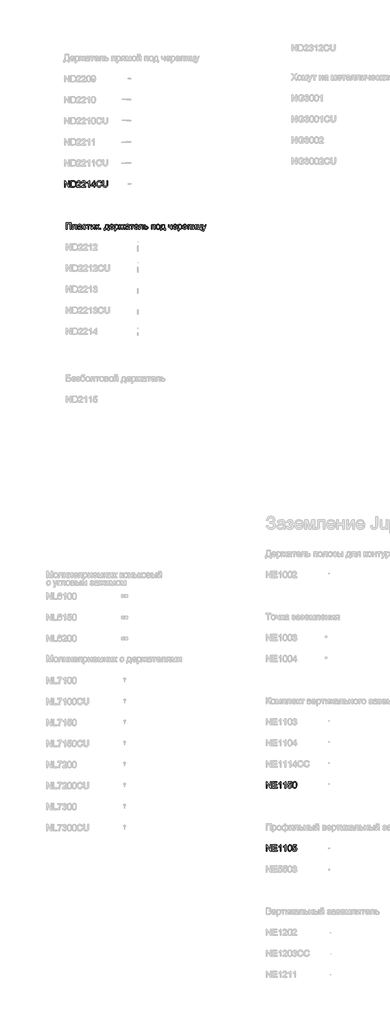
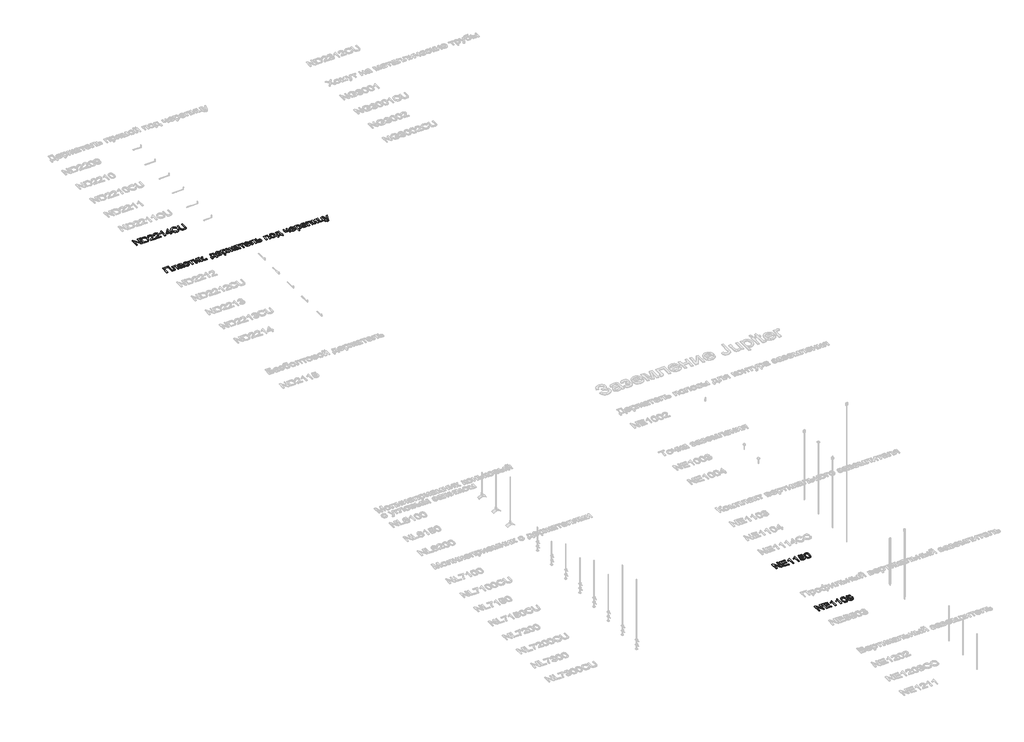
# One storey, part 72 of 124: 4 proxies.
"""IFC4 building model written with IfcOpenShell, lengths in millimetres."""

from ifc_helpers import new_model, si_unit, origin, origin_with_axes, place, context, project, spatial, polyline, outline, extrude, element, save

model = new_model("IFC4")

# Units and contexts
model_context = context("Model", 3, world=origin())
ifc_project = project(units=[si_unit("LENGTHUNIT", "METRE", prefix="MILLI")], contexts=[model_context])

# Site, building, storey
site = spatial("IfcSite", under=ifc_project)
building = spatial("IfcBuilding", under=site)
storey = spatial("IfcBuildingStorey", under=building, Name="Этаж 01", Elevation=0.0)

# Proxies
placement = place(None, origin())
element("IfcBuildingElementProxy", 1, Name="300", ObjectType="300", at=placement, inside=storey, context=model_context, shape_type="SweptSolid", body=[
    extrude(outline(polyline([(23340.1671275, -32519.5141033), (23340.1671275, -32218.1451728), (23380.4869942, -32218.1451728), (23537.9404881, -32456.9005877), (23537.9404881, -32218.1451728), (23575.6116044, -32218.1451728), (23575.6116044, -32519.5141033), (23535.2917378, -32519.5141033), (23377.8382438, -32280.685112), (23377.8382438, -32519.5141033), (23340.1671275, -32519.5141033)])), origin_with_axes(), (0.0, 0.0, 1.0), 20.0),
    extrude(outline(polyline([(23641.536058, -32519.5141033), (23641.536058, -32218.1451728), (23745.4995098, -32218.1451728), (23799.2838575, -32222.4861804), (23823.3065518, -32230.8554957), (23843.5768497, -32244.0440653), (23864.4173648, -32266.9999018), (23879.2614033, -32295.5475446), (23888.1457534, -32329.1351708), (23891.1072035, -32367.2109573), (23889.1022466, -32399.5569817), (23883.087376, -32428.0218511), (23873.9271143, -32452.2560775), (23862.4859843, -32471.9101731), (23849.3158089, -32487.4255962), (23834.968411, -32499.2438053), (23818.4964947, -32508.0085939), (23798.9527637, -32514.3637553), (23750.5027049, -32519.5141033), (23641.536058, -32519.5141033)]), holes=[polyline([(23679.2071743, -32481.842987), (23745.8673918, -32481.842987), (23773.4401473, -32480.4818236), (23794.3542388, -32476.3983334), (23810.1363764, -32469.8316398), (23822.3132704, -32461.020866), (23835.4006724, -32444.7144966), (23845.2323187, -32423.6072671), (23851.3851451, -32397.6072071), (23853.4360872, -32366.6223461), (23849.4169764, -32325.5667154), (23837.359644, -32295.253239), (23819.5449584, -32274.4311181), (23798.2537879, -32261.8495538), (23776.5855384, -32257.3246053), (23744.8373222, -32255.8162891), (23679.2071743, -32255.8162891), (23679.2071743, -32481.842987)])]), origin_with_axes(), (0.0, 0.0, 1.0), 20.0),
    extrude(outline(polyline([(24121.8427909, -32481.842987), (24121.8427909, -32519.5141033), (23924.0694303, -32519.5141033), (23928.1161322, -32493.5416344), (23937.4051526, -32473.2437453), (23950.9983923, -32453.5528615), (23970.661685, -32432.9422727), (23998.1608641, -32409.8852687), (24038.8118246, -32373.7776509), (24063.2024008, -32347.1246003), (24075.397689, -32325.493139), (24079.462785, -32304.4502889), (24075.6276152, -32285.5871396), (24064.1221058, -32269.9061695), (24046.4361789, -32259.3387592), (24024.0597566, -32255.8162891), (24000.5612941, -32259.2559858), (23982.3051501, -32269.5750757), (23970.5237292, -32285.9642186), (23966.4494361, -32307.614074), (23928.7783198, -32302.9051845), (23937.9109903, -32266.4664729), (23946.4573489, -32251.9305355), (23957.6570564, -32239.8502105), (23971.2525954, -32230.3542565), (23986.9864485, -32223.5714322), (24024.869097, -32218.1451728), (24045.0589207, -32219.653489), (24063.0276569, -32224.1784375), (24078.7753056, -32231.7200184), (24092.3018667, -32242.2782317), (24103.1658818, -32255.0713281), (24110.9258927, -32269.3175583), (24115.5818992, -32285.0169225), (24117.1339013, -32302.1694205), (24115.4600383, -32320.1864412), (24110.438449, -32337.8907622), (24101.5265077, -32355.8985859), (24088.1815883, -32374.8261146), (24066.9088119, -32397.4232661), (24034.2132996, -32426.4399585), (23990.8768006, -32462.676335), (23973.8806524, -32481.842987), (24121.8427909, -32481.842987)])), origin_with_axes(), (0.0, 0.0, 1.0), 20.0),
    extrude(outline(polyline([(24352.5783783, -32481.842987), (24352.5783783, -32519.5141033), (24154.8050176, -32519.5141033), (24158.8517196, -32493.5416344), (24168.14074, -32473.2437453), (24181.7339797, -32453.5528615), (24201.3972723, -32432.9422727), (24228.8964515, -32409.8852687), (24269.5474119, -32373.7776509), (24293.9379882, -32347.1246003), (24306.1332764, -32325.493139), (24310.1983724, -32304.4502889), (24306.3632026, -32285.5871396), (24294.8576932, -32269.9061695), (24277.1717663, -32259.3387592), (24254.7953439, -32255.8162891), (24231.2968815, -32259.2559858), (24213.0407375, -32269.5750757), (24201.2593166, -32285.9642186), (24197.1850235, -32307.614074), (24159.5139072, -32302.9051845), (24168.6465777, -32266.4664729), (24177.1929363, -32251.9305355), (24188.3926438, -32239.8502105), (24201.9881828, -32230.3542565), (24217.7220359, -32223.5714322), (24255.6046843, -32218.1451728), (24275.7945081, -32219.653489), (24293.7632443, -32224.1784375), (24309.5108929, -32231.7200184), (24323.037454, -32242.2782317), (24333.9014692, -32255.0713281), (24341.66148, -32269.3175583), (24346.3174865, -32285.0169225), (24347.8694887, -32302.1694205), (24346.1956256, -32320.1864412), (24341.1740364, -32337.8907622), (24332.2620951, -32355.8985859), (24318.9171757, -32374.8261146), (24297.6443993, -32397.4232661), (24264.948887, -32426.4399585), (24221.612388, -32462.676335), (24204.6162398, -32481.842987), (24352.5783783, -32481.842987)])), origin_with_axes(), (0.0, 0.0, 1.0), 20.0),
    extrude(outline(polyline([(24531.5161807, -32519.5141033), (24493.8450644, -32519.5141033), (24493.8450644, -32284.6582375), (24458.1605109, -32310.0788834), (24418.5028318, -32329.0983826), (24418.5028318, -32293.4874054), (24448.0897413, -32277.3925681), (24473.7219193, -32258.2443103), (24493.9278379, -32237.8820419), (24507.235969, -32218.1451728), (24531.5161807, -32218.1451728), (24531.5161807, -32519.5141033)])), origin_with_axes(), (0.0, 0.0, 1.0), 20.0),
    extrude(outline(polyline([(24743.4162099, -32519.5141033), (24743.4162099, -32448.8807602), (24606.8584133, -32448.8807602), (24606.8584133, -32411.2096439), (24752.833989, -32222.8540624), (24781.0873262, -32222.8540624), (24781.0873262, -32411.2096439), (24818.7584425, -32411.2096439), (24818.7584425, -32448.8807602), (24781.0873262, -32448.8807602), (24781.0873262, -32519.5141033), (24743.4162099, -32519.5141033)]), holes=[polyline([(24743.4162099, -32411.2096439), (24743.4162099, -32294.8117806), (24653.2115447, -32411.2096439), (24743.4162099, -32411.2096439)])]), origin_with_axes(), (0.0, 0.0, 1.0), 20.0),
    extrude(outline(polyline([(25077.7473671, -32412.3868663), (25115.4184835, -32422.0989509), (25107.9642745, -32445.5261362), (25098.0360592, -32465.99647), (25085.6338374, -32483.5099522), (25070.7576092, -32498.0665829), (25053.743067, -32509.5100123), (25034.9259029, -32517.6838903), (25014.3061171, -32522.5882172), (24991.8837095, -32524.2229928), (24948.1885255, -32519.27498), (24913.4880563, -32504.4309415), (24886.890188, -32480.2059121), (24867.5028069, -32447.1149266), (24855.6662037, -32408.2114056), (24851.7206693, -32366.5487697), (24856.1812385, -32322.6052653), (24869.5629461, -32284.6582375), (24891.1668162, -32253.9124998), (24920.2938732, -32231.5728656), (24954.8379926, -32217.9704289), (24992.6930499, -32213.4362833), (25033.9970009, -32219.3040011), (25051.9657371, -32226.6386484), (25068.1456471, -32236.9071546), (25082.2700164, -32249.8382067), (25094.0721307, -32265.1604918), (25110.7095939, -32302.9787609), (25073.0384776, -32311.9550816), (25059.9786668, -32284.4834936), (25042.13639, -32265.6387384), (25019.2909181, -32254.7402343), (24991.2215219, -32251.1073996), (24958.8663004, -32255.1357074), (24932.2868263, -32267.220631), (24912.1176959, -32286.0929773), (24898.9935057, -32310.4835536), (24891.7922156, -32338.0563091), (24889.3917856, -32366.4751933), (24892.233674, -32401.27683), (24900.7593393, -32431.3695772), (24915.2906781, -32455.6038036), (24936.1495872, -32472.8298781), (24961.1563658, -32483.1213769), (24988.1313131, -32486.5518765), (25019.5760267, -32481.8797752), (25045.7784218, -32467.8634711), (25065.5612761, -32444.6501172), (25077.7473671, -32412.3868663)])), origin_with_axes(), (0.0, 0.0, 1.0), 20.0),
    extrude(outline(polyline([(25364.989629, -32218.1451728), (25402.6607453, -32218.1451728), (25402.6607453, -32392.0062037), (25400.1039654, -32432.7215435), (25392.4336258, -32464.0742866), (25378.1046221, -32488.2625278), (25355.5718499, -32507.484362), (25324.7801269, -32520.0383351), (25285.6742708, -32524.2229928), (25247.4237404, -32520.580961), (25216.8435495, -32509.6548658), (25193.9245012, -32491.8217861), (25178.6573984, -32467.4588009), (25170.0765509, -32434.7816827), (25167.2162684, -32392.0062037), (25167.2162684, -32218.1451728), (25204.8873847, -32218.1451728), (25204.8873847, -32390.6818285), (25206.7451888, -32424.5361692), (25212.318601, -32448.108208), (25222.4169618, -32464.4329715), (25237.8496114, -32476.5454862), (25257.9727566, -32484.0502789), (25282.1426037, -32486.5518765), (25320.4575135, -32481.6038637), (25334.8003128, -32475.4188476), (25345.9333416, -32466.7598252), (25354.2704673, -32454.5829311), (25360.2255571, -32437.8443003), (25364.989629, -32390.6818285), (25364.989629, -32218.1451728)])), origin_with_axes(), (0.0, 0.0, 1.0), 20.0),
])
element("IfcBuildingElementProxy", 2, Name="300", ObjectType="300", at=placement, inside=storey, context=model_context, shape_type="SweptSolid", body=[
    extrude(outline(polyline([(23426.0630912, -34218.1451728), (23661.5075681, -34218.1451728), (23661.5075681, -34519.5141033), (23623.8364518, -34519.5141033), (23623.8364518, -34255.8162891), (23463.7342075, -34255.8162891), (23463.7342075, -34519.5141033), (23426.0630912, -34519.5141033), (23426.0630912, -34218.1451728)])), origin_with_axes(), (0.0, 0.0, 1.0), 20.0),
    extrude(outline(polyline([(23741.5586903, -34298.196295), (23911.0787136, -34298.196295), (23911.0787136, -34519.2933741), (23873.4075973, -34519.2933741), (23873.4075973, -34335.8674113), (23779.2298066, -34335.8674113), (23779.2298066, -34441.4495439), (23776.6914208, -34490.15712), (23771.936546, -34501.1843829), (23762.7486932, -34510.7217236), (23748.8059656, -34517.3160083), (23729.7864664, -34519.5141033), (23699.1786844, -34517.6011169), (23699.1786844, -34481.842987), (23716.0276798, -34481.842987), (23733.0606162, -34479.5253304), (23739.8664331, -34472.1676905), (23741.5586903, -34439.3158283), (23741.5586903, -34298.196295)])), origin_with_axes(), (0.0, 0.0, 1.0), 20.0),
    extrude(outline(polyline([(24108.8520742, -34491.260766), (24090.8534476, -34506.6934157), (24072.3213921, -34516.7917765), (24052.8328434, -34522.3651887), (24031.9647373, -34524.2229928), (24000.4832355, -34519.7532266), (23977.2606846, -34506.3439278), (23962.9408779, -34485.9816594), (23958.167609, -34460.652984), (23959.9702308, -34445.0363933), (23965.3780961, -34430.8545424), (23973.7198204, -34418.7144366), (23984.3240189, -34409.2230811), (24010.7011579, -34396.8622461), (24043.2955027, -34391.1968633), (24081.8127476, -34385.237175), (24108.631345, -34378.2474171), (24108.8520742, -34369.8597076), (24106.2585062, -34353.0475004), (24098.477802, -34342.0478288), (24081.0769836, -34333.8808485), (24056.8335601, -34331.1585217), (24034.3927584, -34332.9703406), (24018.7209854, -34338.405797), (24008.0340135, -34348.4581726), (24000.5476149, -34364.1207485), (23962.8764986, -34359.411859), (23969.415601, -34338.8104672), (23979.1736709, -34322.6236594), (23993.0612163, -34310.2444303), (24011.9887449, -34301.0657745), (24035.1377195, -34295.3819977), (24061.6896025, -34293.4874054), (24087.1562336, -34295.1612685), (24107.3437581, -34300.1828577), (24122.5648756, -34307.7336357), (24133.1322859, -34316.9950649), (24140.1404379, -34328.445392), (24144.6837806, -34342.5628636), (24146.5231905, -34375.5250903), (24146.5231905, -34422.3932565), (24148.4361769, -34487.8394635), (24155.9409696, -34519.5141033), (24118.2698533, -34519.5141033), (24108.8520742, -34491.260766)]), holes=[polyline([(24108.8520742, -34415.9185334), (24048.0779686, -34427.4700281), (24015.6675649, -34433.5768692), (24000.9890733, -34443.5096831), (23995.8387253, -34458.0042337), (23998.6438255, -34469.2062404), (24007.0591262, -34478.3848962), (24020.9006862, -34484.5101314), (24039.9845647, -34486.5518765), (24060.2180745, -34484.2985993), (24078.0971394, -34477.5387676), (24092.5916901, -34467.5783626), (24102.6716567, -34455.7233653), (24107.141423, -34443.5096831), (24108.631345, -34426.5871113), (24108.8520742, -34415.9185334)])]), origin_with_axes(), (0.0, 0.0, 1.0), 20.0),
    extrude(outline(polyline([(24339.5876616, -34439.4629811), (24377.2587779, -34444.1718706), (24366.755747, -34477.6767234), (24347.0188779, -34502.9962017), (24319.9059749, -34518.916295), (24287.2748419, -34524.2229928), (24266.1469191, -34522.3720865), (24247.2032956, -34516.8193676), (24230.4439714, -34507.5648362), (24215.8689466, -34494.6084922), (24204.0714309, -34478.1940574), (24195.644634, -34458.5652537), (24190.5885558, -34435.7220811), (24188.9031964, -34409.6645395), (24191.781873, -34376.1412927), (24200.4179028, -34347.0878121), (24214.9492417, -34323.6261379), (24235.5138452, -34306.87831), (24260.1159536, -34296.8351316), (24286.7598071, -34293.4874054), (24318.5907967, -34298.0859304), (24344.0390338, -34311.8815052), (24362.2951778, -34334.1383659), (24372.5498884, -34364.1207485), (24334.8787721, -34368.829638), (24328.045364, -34352.3945099), (24317.4043773, -34340.613089), (24303.5444231, -34333.5221635), (24287.0541127, -34331.1585217), (24262.7095217, -34335.812229), (24243.3865199, -34349.7733507), (24230.7773645, -34373.796045), (24226.5743127, -34408.6344699), (24230.685394, -34443.9419444), (24243.0186379, -34468.0474121), (24261.9921518, -34481.9257604), (24286.0240431, -34486.5518765), (24305.5309859, -34483.6640028), (24321.5246557, -34475.0003818), (24333.1589238, -34460.3402843), (24339.5876616, -34439.4629811)])), origin_with_axes(), (0.0, 0.0, 1.0), 20.0),
    extrude(outline(polyline([(24391.3854465, -34298.196295), (24570.323249, -34298.196295), (24570.323249, -34335.8674113), (24499.6899059, -34335.8674113), (24499.6899059, -34519.5141033), (24462.0187896, -34519.5141033), (24462.0187896, -34335.8674113), (24391.3854465, -34335.8674113), (24391.3854465, -34298.196295)])), origin_with_axes(), (0.0, 0.0, 1.0), 20.0),
    extrude(outline(polyline([(24603.2854758, -34298.196295), (24640.9565921, -34298.196295), (24640.9565921, -34466.9805543), (24733.5157021, -34298.196295), (24782.2232782, -34298.196295), (24782.2232782, -34519.5141033), (24744.5521619, -34519.5141033), (24744.5521619, -34351.7599135), (24652.5816631, -34519.5141033), (24603.2854758, -34519.5141033), (24603.2854758, -34298.196295)])), origin_with_axes(), (0.0, 0.0, 1.0), 20.0),
    extrude(outline(polyline([(24838.7299527, -34298.196295), (24876.401069, -34298.196295), (24876.401069, -34392.3740857), (24891.7233541, -34390.6818285), (24901.6377738, -34385.605057), (24910.4117594, -34372.3613052), (24922.312742, -34346.1681071), (24939.4928312, -34312.1390226), (24954.6495694, -34301.0657745), (24982.2039308, -34298.196295), (24989.4144179, -34298.196295), (24989.4144179, -34336.0881405), (24979.2608748, -34335.8674113), (24960.8667751, -34339.8405368), (24947.9173288, -34364.6357833), (24932.7238024, -34391.4543807), (24911.4234349, -34404.587768), (24923.3612057, -34409.8898672), (24935.1886118, -34419.2478655), (24958.5123303, -34450.131559), (24998.832197, -34519.5141033), (24956.0107327, -34519.5141033), (24916.5002065, -34451.603087), (24896.6345787, -34422.8715031), (24887.3455583, -34417.6567758), (24876.401069, -34415.9185334), (24876.401069, -34519.5141033), (24838.7299527, -34519.5141033), (24838.7299527, -34298.196295)])), origin_with_axes(), (0.0, 0.0, 1.0), 20.0),
    extrude(outline(polyline([(25031.7944237, -34519.5141033), (25031.7944237, -34481.842987), (25069.46554, -34481.842987), (25069.46554, -34519.5141033), (25031.7944237, -34519.5141033)])), origin_with_axes(), (0.0, 0.0, 1.0), 20.0),
    extrude(outline(polyline([(25290.7833483, -34298.196295), (25432.0500345, -34298.196295), (25432.0500345, -34481.842987), (25460.3033717, -34481.842987), (25460.3033717, -34580.7296673), (25422.6322554, -34580.7296673), (25422.6322554, -34519.5141033), (25267.2389007, -34519.5141033), (25267.2389007, -34580.7296673), (25229.5677843, -34580.7296673), (25229.5677843, -34481.842987), (25253.112232, -34481.842987), (25270.2279419, -34450.9133082), (25282.2116979, -34409.9956333), (25289.0635, -34359.0899622), (25290.7833483, -34298.196295)]), holes=[polyline([(25323.7455751, -34335.8674113), (25320.6553664, -34381.9906164), (25314.9164072, -34421.6942807), (25306.5286977, -34454.9784043), (25295.4922379, -34481.842987), (25394.3789182, -34481.842987), (25394.3789182, -34335.8674113), (25323.7455751, -34335.8674113)])]), origin_with_axes(), (0.0, 0.0, 1.0), 20.0),
    extrude(outline(polyline([(25657.6352739, -34453.5896497), (25694.5706263, -34458.2985393), (25681.2624951, -34486.1288122), (25660.0265069, -34506.932539), (25631.3409083, -34519.9003794), (25595.6839459, -34524.2229928), (25572.3096437, -34522.3582909), (25551.4829242, -34516.7641853), (25533.2037876, -34507.440676), (25517.4722338, -34494.387763), (25504.8216917, -34477.9687297), (25495.7855902, -34458.5468596), (25490.3639293, -34436.1221527), (25488.556709, -34410.6946091), (25490.3823234, -34384.404842), (25495.8591666, -34361.2328748), (25504.9872386, -34341.1787076), (25517.7665394, -34324.2423402), (25533.4567065, -34310.7870562), (25551.3173773, -34301.1761391), (25571.348552, -34295.4095888), (25593.5502304, -34293.4874054), (25615.0368382, -34295.4049903), (25634.4679053, -34301.157745), (25651.8434318, -34310.7456695), (25667.1634176, -34324.1687638), (25679.6691062, -34341.068343), (25688.6017409, -34361.085722), (25693.9613217, -34384.220901), (25695.7478486, -34410.4738799), (25695.5271194, -34420.627423), (25526.2278253, -34420.627423), (25532.7485336, -34448.8255779), (25547.8960748, -34469.5557283), (25569.7574623, -34482.3028394), (25596.4197099, -34486.5518765), (25616.4692787, -34484.5837078), (25633.3550623, -34478.6792018), (25647.0770607, -34468.4704764), (25657.6352739, -34453.5896497)]), holes=[polyline([(25526.2278253, -34382.9563067), (25658.0767323, -34382.9563067), (25652.9815667, -34363.0538907), (25642.9935705, -34348.8168575), (25621.0310154, -34335.5731057), (25593.4030776, -34331.1585217), (25568.0100229, -34334.6809918), (25547.013158, -34345.2484021), (25532.4174398, -34361.7203185), (25526.2278253, -34382.9563067)])]), origin_with_axes(), (0.0, 0.0, 1.0), 20.0),
    extrude(outline(polyline([(25733.4189649, -34604.2741149), (25733.4189649, -34298.196295), (25771.0900812, -34298.196295), (25771.0900812, -34335.1316473), (25783.3773399, -34316.9122915), (25797.1361265, -34303.8984659), (25813.1757815, -34296.0901705), (25832.3056452, -34293.4874054), (25857.7814734, -34297.1294372), (25880.0567282, -34308.0555324), (25898.1933106, -34325.6035036), (25911.2531214, -34349.1111631), (25919.1441902, -34376.8678596), (25921.7745465, -34407.1629419), (25918.8038994, -34439.3802077), (25909.891958, -34468.1945649), (25895.323831, -34492.1436828), (25875.3846269, -34509.7652304), (25852.1620759, -34520.6085522), (25827.7439085, -34524.2229928), (25810.4258636, -34521.8041687), (25794.9656227, -34514.5476963), (25781.731068, -34503.5940099), (25771.0900812, -34490.0835436), (25771.0900812, -34604.2741149), (25733.4189649, -34604.2741149)]), holes=[polyline([(25771.0900812, -34410.6210327), (25775.1643743, -34444.3925998), (25787.3872536, -34468.0106239), (25805.4226684, -34481.9165634), (25826.9345681, -34486.5518765), (25848.7959557, -34481.7510165), (25867.291223, -34467.3484363), (25879.9003784, -34442.8658896), (25884.1034302, -34407.8251295), (25880.0015459, -34374.2375034), (25867.6958932, -34350.2883855), (25849.6880695, -34335.9409877), (25828.4796725, -34331.1585217), (25807.188502, -34336.2444903), (25788.4908996, -34351.5023961), (25775.4402858, -34376.4539924), (25771.0900812, -34410.6210327)])]), origin_with_axes(), (0.0, 0.0, 1.0), 20.0),
    extrude(outline(polyline([(26100.7123489, -34298.196295), (26100.7123489, -34392.3740857), (26114.002086, -34390.4335082), (26122.674904, -34384.6117756), (26143.4602368, -34344.3286972), (26156.4280771, -34319.220751), (26168.2554832, -34305.7010877), (26182.6212752, -34300.0724931), (26203.4985784, -34298.196295), (26218.4345874, -34298.196295), (26218.4345874, -34336.0881405), (26208.0603151, -34335.8674113), (26188.6361458, -34339.7669604), (26175.1716648, -34364.1943249), (26159.53668, -34390.9761341), (26137.2062428, -34404.587768), (26149.5992676, -34409.8898672), (26161.8359424, -34419.2478655), (26185.8402426, -34450.131559), (26227.8523665, -34519.5141033), (26184.6630202, -34519.5141033), (26143.313084, -34451.0880522), (26132.0099097, -34433.1262137), (26122.2334456, -34422.6507739), (26112.346617, -34417.6015935), (26100.7123489, -34415.9185334), (26100.7123489, -34519.5141033), (26063.0412326, -34519.5141033), (26063.0412326, -34415.9185334), (26051.498935, -34417.5648053), (26041.5937123, -34422.5036211), (26031.7436719, -34432.9054845), (26020.3669212, -34450.9408994), (25979.0169849, -34519.5141033), (25935.9012151, -34519.5141033), (25977.7661861, -34450.131559), (26001.9544273, -34419.2478655), (26014.2554815, -34409.8898672), (26026.6944915, -34404.587768), (26012.3103055, -34397.3772809), (26003.002891, -34389.5781826), (25982.6958049, -34350.9505731), (25972.762991, -34338.221856), (25956.5026068, -34335.6466821), (25945.3189942, -34335.8674113), (25945.3189942, -34298.196295), (25950.9843769, -34298.196295), (25984.0201801, -34300.5507397), (26001.163481, -34310.55713), (26020.3669212, -34344.3286972), (26040.9315247, -34384.3542582), (26049.6043427, -34390.3691289), (26063.0412326, -34392.3740857), (26063.0412326, -34298.196295), (26100.7123489, -34298.196295)])), origin_with_axes(), (0.0, 0.0, 1.0), 20.0),
    extrude(outline(polyline([(26387.9546108, -34491.260766), (26369.9559841, -34506.6934157), (26351.4239286, -34516.7917765), (26331.9353799, -34522.3651887), (26311.0672738, -34524.2229928), (26279.585772, -34519.7532266), (26256.3632211, -34506.3439278), (26242.0434144, -34485.9816594), (26237.2701455, -34460.652984), (26239.0727673, -34445.0363933), (26244.4806326, -34430.8545424), (26252.8223569, -34418.7144366), (26263.4265554, -34409.2230811), (26289.8036944, -34396.8622461), (26322.3980392, -34391.1968633), (26360.9152841, -34385.237175), (26387.7338816, -34378.2474171), (26387.9546108, -34369.8597076), (26385.3610427, -34353.0475004), (26377.5803385, -34342.0478288), (26360.1795201, -34333.8808485), (26335.9360966, -34331.1585217), (26313.4952949, -34332.9703406), (26297.8235219, -34338.405797), (26287.13655, -34348.4581726), (26279.6501514, -34364.1207485), (26241.9790351, -34359.411859), (26248.5181375, -34338.8104672), (26258.2762075, -34322.6236594), (26272.1637528, -34310.2444303), (26291.0912814, -34301.0657745), (26314.240256, -34295.3819977), (26340.792139, -34293.4874054), (26366.2587701, -34295.1612685), (26386.4462946, -34300.1828577), (26401.6674121, -34307.7336357), (26412.2348224, -34316.9950649), (26419.2429745, -34328.445392), (26423.7863171, -34342.5628636), (26425.6257271, -34375.5250903), (26425.6257271, -34422.3932565), (26427.5387134, -34487.8394635), (26435.0435061, -34519.5141033), (26397.3723898, -34519.5141033), (26387.9546108, -34491.260766)]), holes=[polyline([(26387.9546108, -34415.9185334), (26327.1805052, -34427.4700281), (26294.7701014, -34433.5768692), (26280.0916098, -34443.5096831), (26274.9412618, -34458.0042337), (26277.7463621, -34469.2062404), (26286.1616627, -34478.3848962), (26300.0032228, -34484.5101314), (26319.0871013, -34486.5518765), (26339.320611, -34484.2985993), (26357.199676, -34477.5387676), (26371.6942266, -34467.5783626), (26381.7741932, -34455.7233653), (26386.2439595, -34443.5096831), (26387.7338816, -34426.5871113), (26387.9546108, -34415.9185334)])]), origin_with_axes(), (0.0, 0.0, 1.0), 20.0),
    extrude(outline(polyline([(26458.5879538, -34298.196295), (26637.5257563, -34298.196295), (26637.5257563, -34335.8674113), (26566.8924132, -34335.8674113), (26566.8924132, -34519.5141033), (26529.2212969, -34519.5141033), (26529.2212969, -34335.8674113), (26458.5879538, -34335.8674113), (26458.5879538, -34298.196295)])), origin_with_axes(), (0.0, 0.0, 1.0), 20.0),
    extrude(outline(polyline([(26825.4398794, -34453.5896497), (26862.3752317, -34458.2985393), (26849.0671006, -34486.1288122), (26827.8311124, -34506.932539), (26799.1455138, -34519.9003794), (26763.4885514, -34524.2229928), (26740.1142492, -34522.3582909), (26719.2875297, -34516.7641853), (26701.0083931, -34507.440676), (26685.2768393, -34494.387763), (26672.6262972, -34477.9687297), (26663.5901956, -34458.5468596), (26658.1685347, -34436.1221527), (26656.3613144, -34410.6946091), (26658.1869288, -34384.404842), (26663.663772, -34361.2328748), (26672.7918441, -34341.1787076), (26685.5711449, -34324.2423402), (26701.261312, -34310.7870562), (26719.1219828, -34301.1761391), (26739.1531575, -34295.4095888), (26761.3548359, -34293.4874054), (26782.8414436, -34295.4049903), (26802.2725108, -34301.157745), (26819.6480373, -34310.7456695), (26834.9680231, -34324.1687638), (26847.4737117, -34341.068343), (26856.4063464, -34361.085722), (26861.7659272, -34384.220901), (26863.5524541, -34410.4738799), (26863.3317249, -34420.627423), (26694.0324307, -34420.627423), (26700.5531391, -34448.8255779), (26715.7006803, -34469.5557283), (26737.5620678, -34482.3028394), (26764.2243154, -34486.5518765), (26784.2738842, -34484.5837078), (26801.1596677, -34478.6792018), (26814.8816662, -34468.4704764), (26825.4398794, -34453.5896497)]), holes=[polyline([(26694.0324307, -34382.9563067), (26825.8813378, -34382.9563067), (26820.7861722, -34363.0538907), (26810.798176, -34348.8168575), (26788.8356209, -34335.5731057), (26761.2076831, -34331.1585217), (26735.8146284, -34334.6809918), (26714.8177635, -34345.2484021), (26700.2220453, -34361.7203185), (26694.0324307, -34382.9563067)])]), origin_with_axes(), (0.0, 0.0, 1.0), 20.0),
    extrude(outline(polyline([(26920.0591286, -34298.196295), (27089.579152, -34298.196295), (27089.579152, -34519.2933741), (27051.9080357, -34519.2933741), (27051.9080357, -34335.8674113), (26957.7302449, -34335.8674113), (26957.7302449, -34441.4495439), (26955.1918591, -34490.15712), (26950.4369843, -34501.1843829), (26941.2491315, -34510.7217236), (26927.3064039, -34517.3160083), (26908.2869047, -34519.5141033), (26877.6791227, -34517.6011169), (26877.6791227, -34481.842987), (26894.5281181, -34481.842987), (26911.5610545, -34479.5253304), (26918.3668714, -34472.1676905), (26920.0591286, -34439.3158283), (26920.0591286, -34298.196295)])), origin_with_axes(), (0.0, 0.0, 1.0), 20.0),
    extrude(outline(polyline([(27146.0858264, -34298.196295), (27183.7569427, -34298.196295), (27183.7569427, -34378.2474171), (27227.1670182, -34378.2474171), (27264.8013463, -34382.9655037), (27279.9488874, -34388.8631119), (27292.6500133, -34397.1197635), (27302.6931918, -34407.4503497), (27309.8668907, -34419.5697622), (27315.6058498, -34449.1750658), (27310.7222163, -34476.131619), (27296.0713159, -34498.8759233), (27284.8394187, -34507.9051271), (27270.6782611, -34514.3545583), (27233.5681649, -34519.5141033), (27146.0858264, -34519.5141033), (27146.0858264, -34298.196295)]), holes=[polyline([(27183.7569427, -34481.842987), (27218.9264615, -34481.842987), (27246.2141085, -34479.8656212), (27264.3598879, -34473.9335241), (27274.5410221, -34463.8075721), (27277.9347335, -34449.2486422), (27275.4239389, -34436.9429894), (27267.891555, -34426.0720765), (27251.7507325, -34418.4569192), (27223.4146218, -34415.9185334), (27183.7569427, -34415.9185334), (27183.7569427, -34481.842987)])]), origin_with_axes(), (0.0, 0.0, 1.0), 20.0),
    extrude(outline(polyline([(27480.4169836, -34298.196295), (27649.937007, -34298.196295), (27649.937007, -34519.5141033), (27612.2658907, -34519.5141033), (27612.2658907, -34335.8674113), (27518.0880999, -34335.8674113), (27518.0880999, -34519.5141033), (27480.4169836, -34519.5141033), (27480.4169836, -34298.196295)])), origin_with_axes(), (0.0, 0.0, 1.0), 20.0),
    extrude(outline(polyline([(27697.0259024, -34408.8551991), (27699.0630489, -34380.1925932), (27705.1744886, -34355.4939157), (27715.3602213, -34334.7591668), (27729.6202472, -34317.9883463), (27743.976842, -34307.2691847), (27759.823359, -34299.6126406), (27777.159798, -34295.0187142), (27795.9861591, -34293.4874054), (27816.7691926, -34295.3521073), (27835.5610647, -34300.9462129), (27852.3617756, -34310.2697222), (27867.1713252, -34323.3226352), (27879.258548, -34339.6634936), (27887.8922785, -34358.8508389), (27893.0725169, -34380.8846712), (27894.799263, -34405.7649904), (27891.7458424, -34443.8223828), (27882.5855808, -34472.7930899), (27867.5851924, -34494.4889305), (27847.0113918, -34510.7217236), (27822.5748303, -34520.8476755), (27795.9861591, -34524.2229928), (27774.899623, -34522.3651887), (27755.9330069, -34516.7917765), (27739.0863108, -34507.5027561), (27724.3595346, -34494.4981276), (27712.4010705, -34477.9986201), (27703.8593105, -34458.2249629), (27698.7342544, -34435.1771559), (27697.0259024, -34408.8551991)]), holes=[polyline([(27734.6970187, -34408.7816227), (27739.0564203, -34442.8750866), (27752.1346253, -34467.1644953), (27771.816312, -34481.7050312), (27795.9861591, -34486.5518765), (27820.0456416, -34481.6774401), (27839.6905401, -34467.0541307), (27852.7687451, -34442.4428253), (27857.1281467, -34407.6044003), (27852.7411539, -34374.5042178), (27839.5801755, -34350.5459029), (27819.9076858, -34336.005367), (27795.9861591, -34331.1585217), (27771.816312, -34335.9869729), (27752.1346253, -34350.4723265), (27739.0564203, -34374.7065529), (27734.6970187, -34408.7816227)])]), origin_with_axes(), (0.0, 0.0, 1.0), 20.0),
    extrude(outline(polyline([(27970.1414956, -34298.196295), (28111.4081818, -34298.196295), (28111.4081818, -34481.842987), (28139.661519, -34481.842987), (28139.661519, -34580.7296673), (28101.9904027, -34580.7296673), (28101.9904027, -34519.5141033), (27946.5970479, -34519.5141033), (27946.5970479, -34580.7296673), (27908.9259316, -34580.7296673), (27908.9259316, -34481.842987), (27932.4703793, -34481.842987), (27949.5860891, -34450.9133082), (27961.5698451, -34409.9956333), (27968.4216473, -34359.0899622), (27970.1414956, -34298.196295)]), holes=[polyline([(28003.1037224, -34335.8674113), (28000.0135136, -34381.9906164), (27994.2745545, -34421.6942807), (27985.886845, -34454.9784043), (27974.8503852, -34481.842987), (28073.7370655, -34481.842987), (28073.7370655, -34335.8674113), (28003.1037224, -34335.8674113)])]), origin_with_axes(), (0.0, 0.0, 1.0), 20.0),
    extrude(outline(polyline([(28285.6370947, -34298.196295), (28323.308211, -34298.196295), (28323.308211, -34340.6498772), (28326.3616315, -34380.4547091), (28331.5579647, -34392.0245978), (28341.0401232, -34402.012594), (28354.1367222, -34408.9103814), (28370.1763772, -34411.2096439), (28393.2241842, -34408.3585584), (28422.1948913, -34399.805302), (28422.1948913, -34298.196295), (28459.8660076, -34298.196295), (28459.8660076, -34519.5141033), (28422.1948913, -34519.5141033), (28422.1948913, -34435.931314), (28390.0420049, -34445.6433986), (28360.0964105, -34448.8807602), (28337.315318, -34445.5054429), (28317.3853109, -34435.379491), (28301.8514936, -34420.3607085), (28292.2589706, -34402.3068996), (28287.2925637, -34381.7606902), (28285.6370947, -34359.2647062), (28285.6370947, -34298.196295)])), origin_with_axes(), (0.0, 0.0, 1.0), 20.0),
    extrude(outline(polyline([(28671.3245784, -34453.5896497), (28708.2599307, -34458.2985393), (28694.9517996, -34486.1288122), (28673.7158114, -34506.932539), (28645.0302128, -34519.9003794), (28609.3732504, -34524.2229928), (28585.9989482, -34522.3582909), (28565.1722287, -34516.7641853), (28546.8930921, -34507.440676), (28531.1615383, -34494.387763), (28518.5109962, -34477.9687297), (28509.4748946, -34458.5468596), (28504.0532337, -34436.1221527), (28502.2460134, -34410.6946091), (28504.0716278, -34384.404842), (28509.548471, -34361.2328748), (28518.6765431, -34341.1787076), (28531.4558439, -34324.2423402), (28547.146011, -34310.7870562), (28565.0066818, -34301.1761391), (28585.0378565, -34295.4095888), (28607.2395349, -34293.4874054), (28628.7261426, -34295.4049903), (28648.1572098, -34301.157745), (28665.5327363, -34310.7456695), (28680.8527221, -34324.1687638), (28693.3584107, -34341.068343), (28702.2910454, -34361.085722), (28707.6506262, -34384.220901), (28709.4371531, -34410.4738799), (28709.2164239, -34420.627423), (28539.9171297, -34420.627423), (28546.4378381, -34448.8255779), (28561.5853793, -34469.5557283), (28583.4467668, -34482.3028394), (28610.1090144, -34486.5518765), (28630.1585832, -34484.5837078), (28647.0443667, -34478.6792018), (28660.7663652, -34468.4704764), (28671.3245784, -34453.5896497)]), holes=[polyline([(28539.9171297, -34382.9563067), (28671.7660368, -34382.9563067), (28666.6708712, -34363.0538907), (28656.682875, -34348.8168575), (28634.7203199, -34335.5731057), (28607.0923821, -34331.1585217), (28581.6993274, -34334.6809918), (28560.7024625, -34345.2484021), (28546.1067443, -34361.7203185), (28539.9171297, -34382.9563067)])]), origin_with_axes(), (0.0, 0.0, 1.0), 20.0),
    extrude(outline(polyline([(28747.1082694, -34604.2741149), (28747.1082694, -34298.196295), (28784.7793857, -34298.196295), (28784.7793857, -34335.1316473), (28797.0666444, -34316.9122915), (28810.825431, -34303.8984659), (28826.865086, -34296.0901705), (28845.9949497, -34293.4874054), (28871.4707779, -34297.1294372), (28893.7460327, -34308.0555324), (28911.8826151, -34325.6035036), (28924.9424259, -34349.1111631), (28932.8334947, -34376.8678596), (28935.463851, -34407.1629419), (28932.4932039, -34439.3802077), (28923.5812625, -34468.1945649), (28909.0131355, -34492.1436828), (28889.0739314, -34509.7652304), (28865.8513804, -34520.6085522), (28841.433213, -34524.2229928), (28824.1151681, -34521.8041687), (28808.6549272, -34514.5476963), (28795.4203724, -34503.5940099), (28784.7793857, -34490.0835436), (28784.7793857, -34604.2741149), (28747.1082694, -34604.2741149)]), holes=[polyline([(28784.7793857, -34410.6210327), (28788.8536788, -34444.3925998), (28801.0765581, -34468.0106239), (28819.1119729, -34481.9165634), (28840.6238726, -34486.5518765), (28862.4852602, -34481.7510165), (28880.9805275, -34467.3484363), (28893.5896829, -34442.8658896), (28897.7927347, -34407.8251295), (28893.6908504, -34374.2375034), (28881.3851977, -34350.2883855), (28863.377374, -34335.9409877), (28842.168977, -34331.1585217), (28820.8778065, -34336.2444903), (28802.1802041, -34351.5023961), (28789.1295903, -34376.4539924), (28784.7793857, -34410.6210327)])]), origin_with_axes(), (0.0, 0.0, 1.0), 20.0),
    extrude(outline(polyline([(29132.7957532, -34453.5896497), (29169.7311055, -34458.2985393), (29156.4229743, -34486.1288122), (29135.1869861, -34506.932539), (29106.5013876, -34519.9003794), (29070.8444252, -34524.2229928), (29047.4701229, -34522.3582909), (29026.6434035, -34516.7641853), (29008.3642668, -34507.440676), (28992.632713, -34494.387763), (28979.9821709, -34477.9687297), (28970.9460694, -34458.5468596), (28965.5244085, -34436.1221527), (28963.7171882, -34410.6946091), (28965.5428026, -34384.404842), (28971.0196458, -34361.2328748), (28980.1477178, -34341.1787076), (28992.9270186, -34324.2423402), (29008.6171857, -34310.7870562), (29026.4778566, -34301.1761391), (29046.5090312, -34295.4095888), (29068.7107096, -34293.4874054), (29090.1973174, -34295.4049903), (29109.6283845, -34301.157745), (29127.003911, -34310.7456695), (29142.3238969, -34324.1687638), (29154.8295854, -34341.068343), (29163.7622201, -34361.085722), (29169.1218009, -34384.220901), (29170.9083279, -34410.4738799), (29170.6875987, -34420.627423), (29001.3883045, -34420.627423), (29007.9090129, -34448.8255779), (29023.056554, -34469.5557283), (29044.9179416, -34482.3028394), (29071.5801892, -34486.5518765), (29091.6297579, -34484.5837078), (29108.5155415, -34478.6792018), (29122.2375399, -34468.4704764), (29132.7957532, -34453.5896497)]), holes=[polyline([(29001.3883045, -34382.9563067), (29133.2372116, -34382.9563067), (29128.1420459, -34363.0538907), (29118.1540498, -34348.8168575), (29096.1914947, -34335.5731057), (29068.5635568, -34331.1585217), (29043.1705021, -34334.6809918), (29022.1736372, -34345.2484021), (29007.5779191, -34361.7203185), (29001.3883045, -34382.9563067)])]), origin_with_axes(), (0.0, 0.0, 1.0), 20.0),
    extrude(outline(polyline([(29208.5794442, -34298.196295), (29378.0994676, -34298.196295), (29378.0994676, -34519.5141033), (29340.4283513, -34519.5141033), (29340.4283513, -34335.8674113), (29246.2505605, -34335.8674113), (29246.2505605, -34519.5141033), (29208.5794442, -34519.5141033), (29208.5794442, -34298.196295)])), origin_with_axes(), (0.0, 0.0, 1.0), 20.0),
    extrude(outline(polyline([(29434.606142, -34298.196295), (29472.2772583, -34298.196295), (29472.2772583, -34466.9805543), (29564.8363683, -34298.196295), (29613.5439445, -34298.196295), (29613.5439445, -34519.5141033), (29575.8728282, -34519.5141033), (29575.8728282, -34351.7599135), (29483.9023294, -34519.5141033), (29434.606142, -34519.5141033), (29434.606142, -34298.196295)])), origin_with_axes(), (0.0, 0.0, 1.0), 20.0),
    extrude(outline(polyline([(29670.0506189, -34298.196295), (29707.7217352, -34298.196295), (29707.7217352, -34481.842987), (29816.0261946, -34481.842987), (29816.0261946, -34298.196295), (29853.6973109, -34298.196295), (29853.6973109, -34481.842987), (29877.2417586, -34481.842987), (29877.2417586, -34580.7296673), (29839.5706423, -34580.7296673), (29839.5706423, -34519.5141033), (29670.0506189, -34519.5141033), (29670.0506189, -34298.196295)])), origin_with_axes(), (0.0, 0.0, 1.0), 20.0),
    extrude(outline(polyline([(29910.2039854, -34604.2741149), (29905.4950958, -34568.0009502), (29924.6249596, -34571.3118882), (29942.5040246, -34567.1548216), (29953.466908, -34555.5665388), (29963.7676039, -34527.8282364), (29966.7106598, -34518.7047629), (29886.6595377, -34298.196295), (29926.3907932, -34298.196295), (29968.8443754, -34421.0688814), (29983.6332316, -34470.2179159), (29998.4220878, -34426.8078405), (30042.0528925, -34298.196295), (30081.4898423, -34298.196295), (30004.4553525, -34524.811604), (29984.442572, -34573.9606385), (29974.1970584, -34589.6508056), (29962.5903815, -34600.5217186), (29949.1075064, -34606.867683), (29933.2333983, -34608.9830045), (29910.2039854, -34604.2741149)])), origin_with_axes(), (0.0, 0.0, 1.0), 20.0),
])
element("IfcBuildingElementProxy", 3, Name="300", ObjectType="300", at=placement, inside=storey, context=model_context, shape_type="SweptSolid", body=[
    extrude(outline(polyline([(32939.8675381, -61074.498362), (32939.8675381, -60773.1294316), (32980.1874048, -60773.1294316), (33137.6408988, -61011.8848464), (33137.6408988, -60773.1294316), (33175.3120151, -60773.1294316), (33175.3120151, -61074.498362), (33134.9921484, -61074.498362), (32977.5386545, -60835.6693707), (32977.5386545, -61074.498362), (32939.8675381, -61074.498362)])), origin_with_axes(), (0.0, 0.0, 1.0), 20.0),
    extrude(outline(polyline([(33241.2364686, -61074.498362), (33241.2364686, -60773.1294316), (33457.8453874, -60773.1294316), (33457.8453874, -60810.8005479), (33278.9075849, -60810.8005479), (33278.9075849, -60900.2694491), (33448.4276083, -60900.2694491), (33448.4276083, -60937.9405654), (33278.9075849, -60937.9405654), (33278.9075849, -61036.8272457), (33462.5542769, -61036.8272457), (33462.5542769, -61074.498362), (33241.2364686, -61074.498362)])), origin_with_axes(), (0.0, 0.0, 1.0), 20.0),
    extrude(outline(polyline([(33646.2009689, -61074.498362), (33608.5298526, -61074.498362), (33608.5298526, -60839.6424963), (33572.8452991, -60865.0631421), (33533.18762, -60884.0826413), (33533.18762, -60848.4716642), (33562.7745294, -60832.3768269), (33588.4067074, -60813.228569), (33608.612626, -60792.8663006), (33621.9207572, -60773.1294316), (33646.2009689, -60773.1294316), (33646.2009689, -61074.498362)])), origin_with_axes(), (0.0, 0.0, 1.0), 20.0),
    extrude(outline(polyline([(33876.9365563, -61074.498362), (33839.26544, -61074.498362), (33839.26544, -60839.6424963), (33803.5808864, -60865.0631421), (33763.9232073, -60884.0826413), (33763.9232073, -60848.4716642), (33793.5101168, -60832.3768269), (33819.1422948, -60813.228569), (33839.3482134, -60792.8663006), (33852.6563446, -60773.1294316), (33876.9365563, -60773.1294316), (33876.9365563, -61074.498362)])), origin_with_axes(), (0.0, 0.0, 1.0), 20.0),
    extrude(outline(polyline([(33966.4054575, -60994.4472399), (34004.0765738, -60989.7383503), (34010.9927553, -61012.353896), (34023.0592847, -61028.5499008), (34040.2209798, -61038.2895766), (34062.4226582, -61041.5361352), (34089.4251967, -61037.0203837), (34109.6587064, -61023.4731293), (34122.2954529, -61002.4578703), (34126.5077018, -60975.5381053), (34122.5621674, -60950.1910358), (34110.7255642, -60930.8036547), (34090.9059217, -60918.4980019), (34063.0112694, -60914.3961177), (34044.7367313, -60916.0331926), (34029.9386781, -60920.9444172), (34008.7854633, -60937.9405654), (33971.114347, -60933.2316759), (34004.0765738, -60777.8383211), (34150.0521495, -60777.8383211), (34150.0521495, -60815.5094374), (34034.537203, -60815.5094374), (34018.4239716, -60898.5036155), (34045.3345396, -60882.1696549), (34073.5326945, -60876.7250014), (34091.8785097, -60878.41266), (34108.7298044, -60883.475636), (34124.0865784, -60891.9139293), (34137.9488318, -60903.7275398), (34149.4244508, -60918.1944993), (34157.6213215, -60934.5928392), (34162.539444, -60952.9225596), (34164.1788181, -60973.1836605), (34158.2743121, -61010.8547768), (34150.8936795, -61027.6485899), (34140.560794, -61043.0812396), (34124.9074151, -61058.8863698), (34106.6420741, -61070.1757486), (34085.7647708, -61076.9493758), (34062.2755054, -61079.2072515), (34025.2757738, -61073.4039131), (34009.597103, -61066.14974), (33995.7992289, -61055.9938976), (33984.3190114, -61043.4422238), (33975.5933103, -61029.0005562), (33966.4054575, -60994.4472399)])), origin_with_axes(), (0.0, 0.0, 1.0), 20.0),
    extrude(outline(polyline([(34197.1410449, -60926.2419179), (34199.9093569, -60878.0033913), (34208.2142929, -60839.5321317), (34221.9730795, -60810.2395278), (34241.1029433, -60789.5369685), (34265.7418399, -60777.2313158), (34296.0277252, -60773.1294316), (34319.2410791, -60775.5574527), (34340.0264118, -60782.8415162), (34357.4088361, -60794.6965135), (34370.4134646, -60810.8373361), (34380.2359139, -60831.1260281), (34388.0718004, -60855.4246339), (34393.2037542, -60886.2807362), (34394.9144055, -60926.2419179), (34392.1736846, -60974.2045331), (34383.951522, -61012.5838222), (34370.2755088, -61041.9040172), (34351.1732362, -61062.68935), (34326.4791573, -61075.0777761), (34296.0277252, -61079.2072515), (34275.2791806, -61077.4138268), (34256.8850809, -61072.0335526), (34240.8454259, -61063.066429), (34227.1602157, -61050.5124559), (34214.0268284, -61027.8187353), (34204.6458376, -60999.5424055), (34199.017243, -60965.6834664), (34197.1410449, -60926.2419179)]), holes=[polyline([(34234.8121612, -60926.1683415), (34239.2267451, -60985.4249339), (34244.744975, -61005.6929326), (34252.4704969, -61019.7207329), (34272.1889719, -61036.0822847), (34296.0277252, -61041.5361352), (34319.8664785, -61036.0638906), (34339.5849534, -61019.6471565), (34347.3104753, -61005.5963636), (34352.8287052, -60985.3329634), (34357.2432892, -60926.1683415), (34352.975858, -60868.2453214), (34347.6415691, -60848.0440013), (34340.1735646, -60833.682808), (34320.4918778, -60816.5211129), (34295.5862668, -60810.8005479), (34272.0050309, -60815.8405312), (34253.0591081, -60830.9604812), (34245.0760688, -60846.595466), (34239.3738979, -60867.6751043), (34234.8121612, -60926.1683415)])]), origin_with_axes(), (0.0, 0.0, 1.0), 20.0),
])
element("IfcBuildingElementProxy", 4, Name="300", ObjectType="300", at=placement, inside=storey, context=model_context, shape_type="SweptSolid", body=[
    extrude(outline(polyline([(32939.8675381, -64074.498362), (32939.8675381, -63773.1294316), (32980.1874048, -63773.1294316), (33137.6408988, -64011.8848464), (33137.6408988, -63773.1294316), (33175.3120151, -63773.1294316), (33175.3120151, -64074.498362), (33134.9921484, -64074.498362), (32977.5386545, -63835.6693707), (32977.5386545, -64074.498362), (32939.8675381, -64074.498362)])), origin_with_axes(), (0.0, 0.0, 1.0), 20.0),
    extrude(outline(polyline([(33241.2364686, -64074.498362), (33241.2364686, -63773.1294316), (33457.8453874, -63773.1294316), (33457.8453874, -63810.8005479), (33278.9075849, -63810.8005479), (33278.9075849, -63900.2694491), (33448.4276083, -63900.2694491), (33448.4276083, -63937.9405654), (33278.9075849, -63937.9405654), (33278.9075849, -64036.8272457), (33462.5542769, -64036.8272457), (33462.5542769, -64074.498362), (33241.2364686, -64074.498362)])), origin_with_axes(), (0.0, 0.0, 1.0), 20.0),
    extrude(outline(polyline([(33646.2009689, -64074.498362), (33608.5298526, -64074.498362), (33608.5298526, -63839.6424963), (33572.8452991, -63865.0631421), (33533.18762, -63884.0826413), (33533.18762, -63848.4716642), (33562.7745294, -63832.3768269), (33588.4067074, -63813.228569), (33608.612626, -63792.8663006), (33621.9207572, -63773.1294316), (33646.2009689, -63773.1294316), (33646.2009689, -64074.498362)])), origin_with_axes(), (0.0, 0.0, 1.0), 20.0),
    extrude(outline(polyline([(33876.9365563, -64074.498362), (33839.26544, -64074.498362), (33839.26544, -63839.6424963), (33803.5808864, -63865.0631421), (33763.9232073, -63884.0826413), (33763.9232073, -63848.4716642), (33793.5101168, -63832.3768269), (33819.1422948, -63813.228569), (33839.3482134, -63792.8663006), (33852.6563446, -63773.1294316), (33876.9365563, -63773.1294316), (33876.9365563, -64074.498362)])), origin_with_axes(), (0.0, 0.0, 1.0), 20.0),
    extrude(outline(polyline([(33966.4054575, -63926.2419179), (33969.1737695, -63878.0033913), (33977.4787055, -63839.5321317), (33991.2374922, -63810.2395278), (34010.3673559, -63789.5369685), (34035.0062525, -63777.2313158), (34065.2921378, -63773.1294316), (34088.5054917, -63775.5574527), (34109.2908244, -63782.8415162), (34126.6732487, -63794.6965135), (34139.6778772, -63810.8373361), (34149.5003265, -63831.1260281), (34157.336213, -63855.4246339), (34162.4681668, -63886.2807362), (34164.1788181, -63926.2419179), (34161.4380972, -63974.2045331), (34153.2159346, -64012.5838222), (34139.5399215, -64041.9040172), (34120.4376489, -64062.68935), (34095.7435699, -64075.0777761), (34065.2921378, -64079.2072515), (34044.5435933, -64077.4138268), (34026.1494935, -64072.0335526), (34010.1098385, -64063.066429), (33996.4246283, -64050.5124559), (33983.2912411, -64027.8187353), (33973.9102502, -63999.5424055), (33968.2816557, -63965.6834664), (33966.4054575, -63926.2419179)]), holes=[polyline([(34004.0765738, -63926.1683415), (34008.4911577, -63985.4249339), (34014.0093877, -64005.6929326), (34021.7349096, -64019.7207329), (34041.4533845, -64036.0822847), (34065.2921378, -64041.5361352), (34089.1308911, -64036.0638906), (34108.849366, -64019.6471565), (34116.5748879, -64005.5963636), (34122.0931178, -63985.3329634), (34126.5077018, -63926.1683415), (34122.2402706, -63868.2453214), (34116.9059817, -63848.0440013), (34109.4379772, -63833.682808), (34089.7562905, -63816.5211129), (34064.8506794, -63810.8005479), (34041.2694435, -63815.8405312), (34022.3235208, -63830.9604812), (34014.3404815, -63846.595466), (34008.6383105, -63867.6751043), (34004.0765738, -63926.1683415)])]), origin_with_axes(), (0.0, 0.0, 1.0), 20.0),
    extrude(outline(polyline([(34197.1410449, -63994.4472399), (34234.8121612, -63989.7383503), (34241.7283427, -64012.353896), (34253.7948721, -64028.5499008), (34270.9565672, -64038.2895766), (34293.1582456, -64041.5361352), (34320.1607841, -64037.0203837), (34340.3942938, -64023.4731293), (34353.0310403, -64002.4578703), (34357.2432892, -63975.5381053), (34353.2977548, -63950.1910358), (34341.4611516, -63930.8036547), (34321.6415091, -63918.4980019), (34293.7468568, -63914.3961177), (34275.4723187, -63916.0331926), (34260.6742654, -63920.9444172), (34239.5210507, -63937.9405654), (34201.8499344, -63933.2316759), (34234.8121612, -63777.8383211), (34380.7877369, -63777.8383211), (34380.7877369, -63815.5094374), (34265.2727904, -63815.5094374), (34249.159559, -63898.5036155), (34276.0701269, -63882.1696549), (34304.2682819, -63876.7250014), (34322.6140971, -63878.41266), (34339.4653917, -63883.475636), (34354.8221658, -63891.9139293), (34368.6844192, -63903.7275398), (34380.1600382, -63918.1944993), (34388.3569089, -63934.5928392), (34393.2750313, -63952.9225596), (34394.9144055, -63973.1836605), (34389.0098994, -64010.8547768), (34381.6292669, -64027.6485899), (34371.2963814, -64043.0812396), (34355.6430025, -64058.8863698), (34337.3776614, -64070.1757486), (34316.5003582, -64076.9493758), (34293.0110928, -64079.2072515), (34256.0113611, -64073.4039131), (34240.3326904, -64066.14974), (34226.5348163, -64055.9938976), (34215.0545988, -64043.4422238), (34206.3288977, -64029.0005562), (34197.1410449, -63994.4472399)])), origin_with_axes(), (0.0, 0.0, 1.0), 20.0),
])

save(model, "model.ifc")
